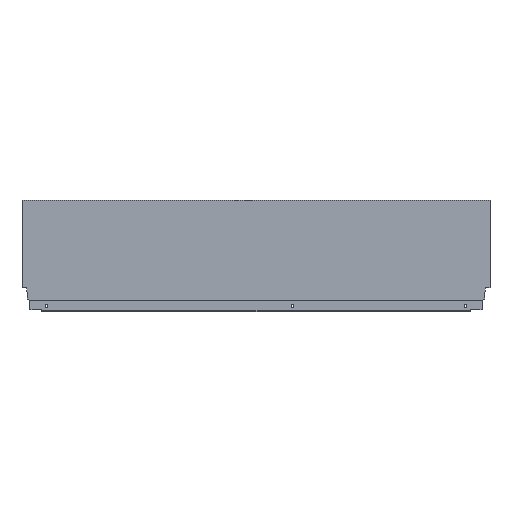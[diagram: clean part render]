
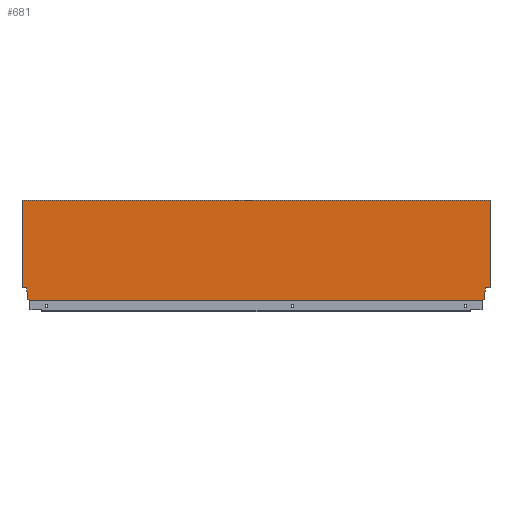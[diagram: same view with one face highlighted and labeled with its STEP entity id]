
A CAD part, top view. The second image highlights one B-rep face of the part: STEP entity #681.
In plain terms, the highlighted planar face has unit normal (0, 0, 1).
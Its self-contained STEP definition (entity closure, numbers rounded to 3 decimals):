
#1 = LINE ( 'NONE', #1247, #2 ) ;
#2 = VECTOR ( 'NONE', #1246, 1000. ) ;
#4 = LINE ( 'NONE', #1239, #13 ) ;
#5 = LINE ( 'NONE', #1243, #6 ) ;
#6 = VECTOR ( 'NONE', #1242, 1000. ) ;
#7 = VECTOR ( 'NONE', #1240, 1000. ) ;
#8 = LINE ( 'NONE', #1235, #15 ) ;
#9 = VECTOR ( 'NONE', #1238, 1000. ) ;
#10 = LINE ( 'NONE', #1233, #19 ) ;
#11 = LINE ( 'NONE', #1237, #12 ) ;
#12 = VECTOR ( 'NONE', #1236, 1000. ) ;
#13 = VECTOR ( 'NONE', #1234, 1000. ) ;
#14 = LINE ( 'NONE', #1229, #21 ) ;
#15 = VECTOR ( 'NONE', #1232, 1000. ) ;
#16 = LINE ( 'NONE', #1226, #23 ) ;
#17 = LINE ( 'NONE', #1231, #18 ) ;
#18 = VECTOR ( 'NONE', #1230, 1000. ) ;
#19 = VECTOR ( 'NONE', #1227, 1000. ) ;
#20 = LINE ( 'NONE', #1224, #25 ) ;
#21 = VECTOR ( 'NONE', #1225, 1000. ) ;
#23 = VECTOR ( 'NONE', #1223, 1000. ) ;
#25 = VECTOR ( 'NONE', #1155, 1000. ) ;
#269 = CARTESIAN_POINT ( 'NONE',  ( -753.996, 1.146, 7.5 ) ) ;
#271 = CARTESIAN_POINT ( 'NONE',  ( -753.996, 0., 7.5 ) ) ;
#272 = CARTESIAN_POINT ( 'NONE',  ( -759.94, 21.2, 7.5 ) ) ;
#288 = CARTESIAN_POINT ( 'NONE',  ( -7.06, 21.2, 7.5 ) ) ;
#297 = CARTESIAN_POINT ( 'NONE',  ( 0., 164.7, 7.5 ) ) ;
#298 = CARTESIAN_POINT ( 'NONE',  ( -8.9, 10.765, 7.5 ) ) ;
#300 = CARTESIAN_POINT ( 'NONE',  ( -767., 164.7, 7.5 ) ) ;
#302 = CARTESIAN_POINT ( 'NONE',  ( -13.004, 0., 7.5 ) ) ;
#303 = CARTESIAN_POINT ( 'NONE',  ( -8.9, 2.64, 7.5 ) ) ;
#304 = CARTESIAN_POINT ( 'NONE',  ( -758.1, 2.64, 7.5 ) ) ;
#305 = CARTESIAN_POINT ( 'NONE',  ( -767., 21.2, 7.5 ) ) ;
#306 = CARTESIAN_POINT ( 'NONE',  ( -13.004, 1.146, 7.5 ) ) ;
#307 = CARTESIAN_POINT ( 'NONE',  ( -758.1, 10.765, 7.5 ) ) ;
#313 = CARTESIAN_POINT ( 'NONE',  ( 0., 21.2, 7.5 ) ) ;
#462 = ORIENTED_EDGE ( 'NONE', *, *, #752, .F. ) ;
#463 = ORIENTED_EDGE ( 'NONE', *, *, #750, .F. ) ;
#464 = ORIENTED_EDGE ( 'NONE', *, *, #753, .F. ) ;
#465 = ORIENTED_EDGE ( 'NONE', *, *, #749, .F. ) ;
#466 = ORIENTED_EDGE ( 'NONE', *, *, #751, .F. ) ;
#604 = ORIENTED_EDGE ( 'NONE', *, *, #742, .F. ) ;
#681 = ADVANCED_FACE ( 'NONE', ( #1321 ), #1004, .T. ) ;
#741 = EDGE_CURVE ( 'NONE', #1141, #1135, #1395, .T. ) ;
#742 = EDGE_CURVE ( 'NONE', #1141, #1143, #1399, .T. ) ;
#743 = EDGE_CURVE ( 'NONE', #1136, #1140, #1, .T. ) ;
#745 = EDGE_CURVE ( 'NONE', #1143, #1133, #5, .T. ) ;
#746 = EDGE_CURVE ( 'NONE', #1140, #1138, #1392, .T. ) ;
#747 = EDGE_CURVE ( 'NONE', #1131, #1138, #1499, .T. ) ;
#748 = EDGE_CURVE ( 'NONE', #1133, #1136, #11, .T. ) ;
#749 = EDGE_CURVE ( 'NONE', #1125, #1134, #4, .T. ) ;
#750 = EDGE_CURVE ( 'NONE', #1137, #1135, #8, .T. ) ;
#751 = EDGE_CURVE ( 'NONE', #1064, #1125, #17, .T. ) ;
#752 = EDGE_CURVE ( 'NONE', #1134, #1137, #10, .T. ) ;
#753 = EDGE_CURVE ( 'NONE', #1148, #1064, #14, .T. ) ;
#754 = EDGE_CURVE ( 'NONE', #1126, #1148, #16, .T. ) ;
#755 = EDGE_CURVE ( 'NONE', #1131, #1126, #20, .T. ) ;
#863 = AXIS2_PLACEMENT_3D ( 'NONE', #1001, #989, #988 ) ;
#988 = DIRECTION ( 'NONE',  ( 1., 0., 0. ) ) ;
#989 = DIRECTION ( 'NONE',  ( 0., 0., 1. ) ) ;
#1001 = CARTESIAN_POINT ( 'NONE',  ( -767., 0., 7.5 ) ) ;
#1004 = PLANE ( 'NONE',  #863 ) ;
#1064 = VERTEX_POINT ( 'NONE', #288 ) ;
#1119 = CARTESIAN_POINT ( 'NONE',  ( -753.996, 1.146, 7.5 ) ) ;
#1125 = VERTEX_POINT ( 'NONE', #298 ) ;
#1126 = VERTEX_POINT ( 'NONE', #297 ) ;
#1131 = VERTEX_POINT ( 'NONE', #300 ) ;
#1133 = VERTEX_POINT ( 'NONE', #304 ) ;
#1134 = VERTEX_POINT ( 'NONE', #303 ) ;
#1135 = VERTEX_POINT ( 'NONE', #302 ) ;
#1136 = VERTEX_POINT ( 'NONE', #307 ) ;
#1137 = VERTEX_POINT ( 'NONE', #306 ) ;
#1138 = VERTEX_POINT ( 'NONE', #305 ) ;
#1140 = VERTEX_POINT ( 'NONE', #272 ) ;
#1141 = VERTEX_POINT ( 'NONE', #271 ) ;
#1143 = VERTEX_POINT ( 'NONE', #269 ) ;
#1148 = VERTEX_POINT ( 'NONE', #313 ) ;
#1155 = DIRECTION ( 'NONE',  ( 1., 0., 0. ) ) ;
#1157 = CARTESIAN_POINT ( 'NONE',  ( -767., 0., 7.5 ) ) ;
#1223 = DIRECTION ( 'NONE',  ( 0., -1., 0. ) ) ;
#1224 = CARTESIAN_POINT ( 'NONE',  ( -767., 164.7, 7.5 ) ) ;
#1225 = DIRECTION ( 'NONE',  ( -1., 0., 0. ) ) ;
#1226 = CARTESIAN_POINT ( 'NONE',  ( 0., 0., 7.5 ) ) ;
#1227 = DIRECTION ( 'NONE',  ( -0.94, -0.342, 0. ) ) ;
#1229 = CARTESIAN_POINT ( 'NONE',  ( 0., 21.2, 7.5 ) ) ;
#1230 = DIRECTION ( 'NONE',  ( -0.174, -0.985, 0. ) ) ;
#1231 = CARTESIAN_POINT ( 'NONE',  ( -7.06, 21.2, 7.5 ) ) ;
#1232 = DIRECTION ( 'NONE',  ( 0., -1., 0. ) ) ;
#1233 = CARTESIAN_POINT ( 'NONE',  ( -8.9, 2.64, 7.5 ) ) ;
#1234 = DIRECTION ( 'NONE',  ( 0., -1., 0. ) ) ;
#1235 = CARTESIAN_POINT ( 'NONE',  ( -13.004, 1.146, 7.5 ) ) ;
#1236 = DIRECTION ( 'NONE',  ( 0., 1., 0. ) ) ;
#1237 = CARTESIAN_POINT ( 'NONE',  ( -758.1, 10.765, 7.5 ) ) ;
#1238 = DIRECTION ( 'NONE',  ( 0., -1., 0. ) ) ;
#1239 = CARTESIAN_POINT ( 'NONE',  ( -8.9, 10.765, 7.5 ) ) ;
#1240 = DIRECTION ( 'NONE',  ( -1., 0., 0. ) ) ;
#1241 = CARTESIAN_POINT ( 'NONE',  ( -767., 0., 7.5 ) ) ;
#1242 = DIRECTION ( 'NONE',  ( -0.94, 0.342, 0. ) ) ;
#1243 = CARTESIAN_POINT ( 'NONE',  ( -758.1, 2.64, 7.5 ) ) ;
#1245 = CARTESIAN_POINT ( 'NONE',  ( -772., 21.2, 7.5 ) ) ;
#1246 = DIRECTION ( 'NONE',  ( -0.174, 0.985, 0. ) ) ;
#1247 = CARTESIAN_POINT ( 'NONE',  ( -759.94, 21.2, 7.5 ) ) ;
#1248 = DIRECTION ( 'NONE',  ( 0., 1., 0. ) ) ;
#1250 = DIRECTION ( 'NONE',  ( 1., 0., 0. ) ) ;
#1287 = EDGE_LOOP ( 'NONE', ( #1467, #1466, #1465, #1464, #1463, #604, #1413, #463, #462, #465, #466, #464, #1404, #1403 ) ) ;
#1321 = FACE_OUTER_BOUND ( 'NONE', #1287, .T. ) ;
#1392 = LINE ( 'NONE', #1245, #7 ) ;
#1395 = LINE ( 'NONE', #1157, #1397 ) ;
#1397 = VECTOR ( 'NONE', #1250, 1000. ) ;
#1399 = LINE ( 'NONE', #1119, #1498 ) ;
#1403 = ORIENTED_EDGE ( 'NONE', *, *, #755, .F. ) ;
#1404 = ORIENTED_EDGE ( 'NONE', *, *, #754, .F. ) ;
#1413 = ORIENTED_EDGE ( 'NONE', *, *, #741, .T. ) ;
#1463 = ORIENTED_EDGE ( 'NONE', *, *, #745, .F. ) ;
#1464 = ORIENTED_EDGE ( 'NONE', *, *, #748, .F. ) ;
#1465 = ORIENTED_EDGE ( 'NONE', *, *, #743, .F. ) ;
#1466 = ORIENTED_EDGE ( 'NONE', *, *, #746, .F. ) ;
#1467 = ORIENTED_EDGE ( 'NONE', *, *, #747, .T. ) ;
#1498 = VECTOR ( 'NONE', #1248, 1000. ) ;
#1499 = LINE ( 'NONE', #1241, #9 ) ;
